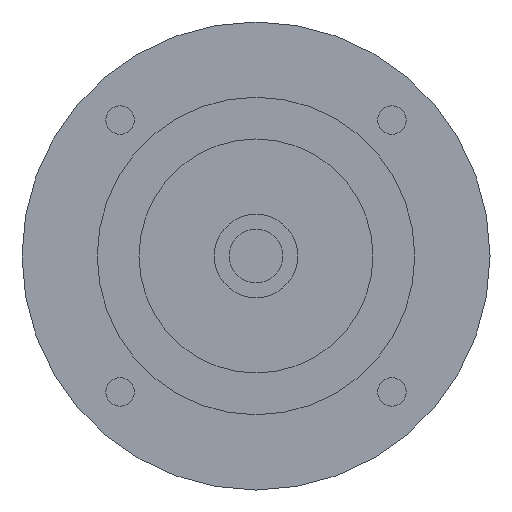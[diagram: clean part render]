
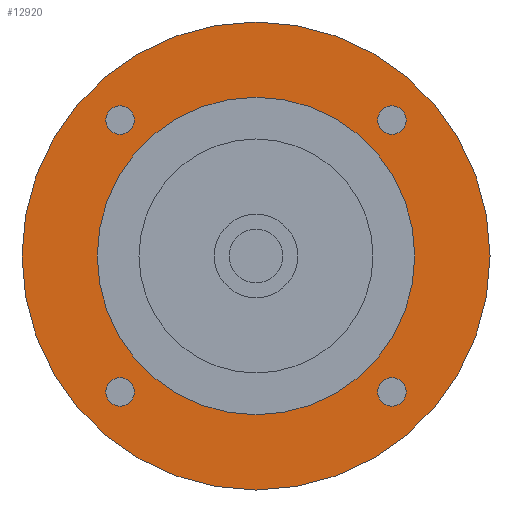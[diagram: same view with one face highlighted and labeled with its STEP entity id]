
A CAD part, left-side view. The second image highlights one B-rep face of the part: STEP entity #12920.
In plain terms, the highlighted planar face has unit normal (-1, 0, 0) as drawn and (0, 0, -1) by its records, which use the part's own axes.
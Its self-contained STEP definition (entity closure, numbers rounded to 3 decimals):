
#11760=CARTESIAN_POINT('',(-70.,0.,-59.701));
#11770=VERTEX_POINT('',#11760);
#11800=CARTESIAN_POINT('',(0.,0.,
-59.701));
#11810=DIRECTION('',(0.,0.,-1.));
#11820=DIRECTION('',(0.,-1.,0.));
#11830=AXIS2_PLACEMENT_3D('',#11800,#11810,#11820);
#11840=CIRCLE('',#11830,70.);
#11850=CARTESIAN_POINT('',(70.,0.,-59.701));
#11860=VERTEX_POINT('',#11850);
#11870=EDGE_CURVE('',#11770,#11860,#11840,.T.);
#11990=CARTESIAN_POINT('',(0.,0.,
-59.701));
#12000=DIRECTION('',(0.,0.,-1.));
#12010=DIRECTION('',(1.,0.,0.));
#12020=AXIS2_PLACEMENT_3D('',#11990,#12000,#12010);
#12030=PLANE('',#12020);
#12040=CARTESIAN_POINT('',(40.659,40.659,-59.701));
#12050=DIRECTION('',(0.,0.,-1.));
#12060=DIRECTION('',(0.,1.,0.));
#12070=AXIS2_PLACEMENT_3D('',#12040,#12050,#12060);
#12080=CIRCLE('',#12070,4.25);
#12090=CARTESIAN_POINT('',(40.659,44.909,-59.701));
#12100=VERTEX_POINT('',#12090);
#12110=CARTESIAN_POINT('',(40.659,36.409,-59.701));
#12120=VERTEX_POINT('',#12110);
#12130=EDGE_CURVE('',#12100,#12120,#12080,.T.);
#12140=ORIENTED_EDGE('',*,*,#12130,.F.);
#12150=EDGE_CURVE('',#12120,#12100,#12080,.T.);
#12160=ORIENTED_EDGE('',*,*,#12150,.F.);
#12170=EDGE_LOOP('',(#12160,#12140));
#12180=FACE_BOUND('',#12170,.T.);
#12190=CARTESIAN_POINT('',(-40.659,40.659,-59.701));
#12200=DIRECTION('',(0.,0.,-1.));
#12210=DIRECTION('',(-1.,0.,0.));
#12220=AXIS2_PLACEMENT_3D('',#12190,#12200,#12210);
#12230=CIRCLE('',#12220,4.25);
#12240=CARTESIAN_POINT('',(-44.909,40.659,-59.701));
#12250=VERTEX_POINT('',#12240);
#12260=CARTESIAN_POINT('',(-36.409,40.659,-59.701));
#12270=VERTEX_POINT('',#12260);
#12280=EDGE_CURVE('',#12250,#12270,#12230,.T.);
#12290=ORIENTED_EDGE('',*,*,#12280,.F.);
#12300=EDGE_CURVE('',#12270,#12250,#12230,.T.);
#12310=ORIENTED_EDGE('',*,*,#12300,.F.);
#12320=EDGE_LOOP('',(#12310,#12290));
#12330=FACE_BOUND('',#12320,.T.);
#12340=CARTESIAN_POINT('',(-40.659,-40.659,-59.701))
;
#12350=DIRECTION('',(0.,0.,-1.));
#12360=DIRECTION('',(0.,-1.,0.));
#12370=AXIS2_PLACEMENT_3D('',#12340,#12350,#12360);
#12380=CIRCLE('',#12370,4.25);
#12390=CARTESIAN_POINT('',(-40.659,-44.909,-59.701))
;
#12400=VERTEX_POINT('',#12390);
#12410=CARTESIAN_POINT('',(-40.659,-36.409,-59.701))
;
#12420=VERTEX_POINT('',#12410);
#12430=EDGE_CURVE('',#12400,#12420,#12380,.T.);
#12440=ORIENTED_EDGE('',*,*,#12430,.F.);
#12450=EDGE_CURVE('',#12420,#12400,#12380,.T.);
#12460=ORIENTED_EDGE('',*,*,#12450,.F.);
#12470=EDGE_LOOP('',(#12460,#12440));
#12480=FACE_BOUND('',#12470,.T.);
#12490=CARTESIAN_POINT('',(0.,0.,
-59.701));
#12500=DIRECTION('',(0.,0.,1.));
#12510=DIRECTION('',(0.,1.,0.));
#12520=AXIS2_PLACEMENT_3D('',#12490,#12500,#12510);
#12530=CIRCLE('',#12520,47.5);
#12540=CARTESIAN_POINT('',(-47.5,0.,-59.701));
#12550=VERTEX_POINT('',#12540);
#12560=CARTESIAN_POINT('',(47.5,0.,-59.701));
#12570=VERTEX_POINT('',#12560);
#12580=EDGE_CURVE('',#12550,#12570,#12530,.T.);
#12590=ORIENTED_EDGE('',*,*,#12580,.T.);
#12600=CARTESIAN_POINT('',(0.,47.5,-59.701));
#12610=VERTEX_POINT('',#12600);
#12620=EDGE_CURVE('',#12610,#12550,#12530,.T.);
#12630=ORIENTED_EDGE('',*,*,#12620,.T.);
#12640=EDGE_CURVE('',#12570,#12610,#12530,.T.);
#12650=ORIENTED_EDGE('',*,*,#12640,.T.);
#12660=EDGE_LOOP('',(#12650,#12630,#12590));
#12670=FACE_BOUND('',#12660,.T.);
#12680=CARTESIAN_POINT('',(40.659,-40.659,-59.701));
#12690=DIRECTION('',(0.,0.,-1.));
#12700=DIRECTION('',(1.,0.,0.));
#12710=AXIS2_PLACEMENT_3D('',#12680,#12690,#12700);
#12720=CIRCLE('',#12710,4.25);
#12730=CARTESIAN_POINT('',(44.909,-40.659,-59.701));
#12740=VERTEX_POINT('',#12730);
#12750=CARTESIAN_POINT('',(36.409,-40.659,-59.701));
#12760=VERTEX_POINT('',#12750);
#12770=EDGE_CURVE('',#12740,#12760,#12720,.T.);
#12780=ORIENTED_EDGE('',*,*,#12770,.F.);
#12790=EDGE_CURVE('',#12760,#12740,#12720,.T.);
#12800=ORIENTED_EDGE('',*,*,#12790,.F.);
#12810=EDGE_LOOP('',(#12800,#12780));
#12820=FACE_BOUND('',#12810,.T.);
#12830=ORIENTED_EDGE('',*,*,#11870,.T.);
#12840=CARTESIAN_POINT('',(0.,-70.,-59.701));
#12850=VERTEX_POINT('',#12840);
#12860=EDGE_CURVE('',#12850,#11770,#11840,.T.);
#12870=ORIENTED_EDGE('',*,*,#12860,.T.);
#12880=EDGE_CURVE('',#11860,#12850,#11840,.T.);
#12890=ORIENTED_EDGE('',*,*,#12880,.T.);
#12900=EDGE_LOOP('',(#12890,#12870,#12830));
#12910=FACE_OUTER_BOUND('',#12900,.T.);
#12920=ADVANCED_FACE('',(#12180,#12330,#12480,#12670,#12820,#12910),
#12030,.T.);
